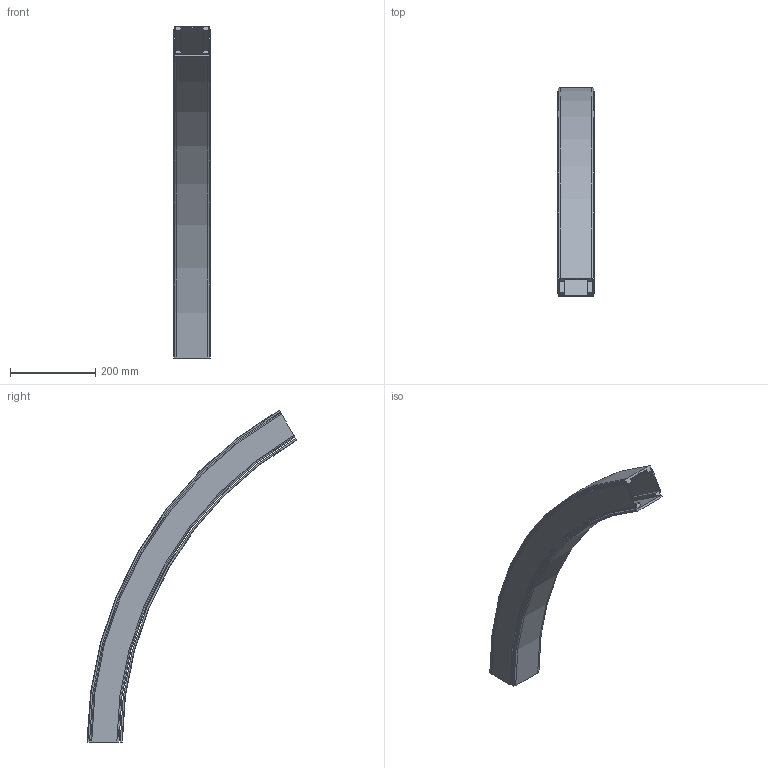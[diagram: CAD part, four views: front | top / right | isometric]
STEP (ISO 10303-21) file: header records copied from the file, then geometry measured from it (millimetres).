
FILE_DESCRIPTION((''),'2;1');
FILE_NAME('C:\Vault Klient\Projekt\Koncept konstruktion\Serie 530 Balk\530-5680_DOWN.stp','2010-11-23T13:30:02',('Mathias'),(''),'Autodesk Inventor 2011','Autodesk Inventor 2011','');
FILE_SCHEMA(('AUTOMOTIVE_DESIGN { 1 0 10303 214 1 1 1 1 }'));
Length unit declared in the file: millimetre
Products named in the file (1): 530-5680_DOWN
Bounding box: 86 x 490.75 x 778.99 mm (x, y, z)
Volume: 1335694.8 mm3; surface area: 648114.3 mm2
Topology: 2 solids, 2 shells, 87 faces, 234 edges, 156 vertices
Faces by surface type: plane 40, cylinder 25, bspline 14, cone 4, torus 4
Entity records: 3221 total; most frequent: CARTESIAN_POINT 983, ORIENTED_EDGE 468, DIRECTION 428, EDGE_CURVE 234, VERTEX_POINT 156, AXIS2_PLACEMENT_3D 148, VECTOR 132, LINE 132
